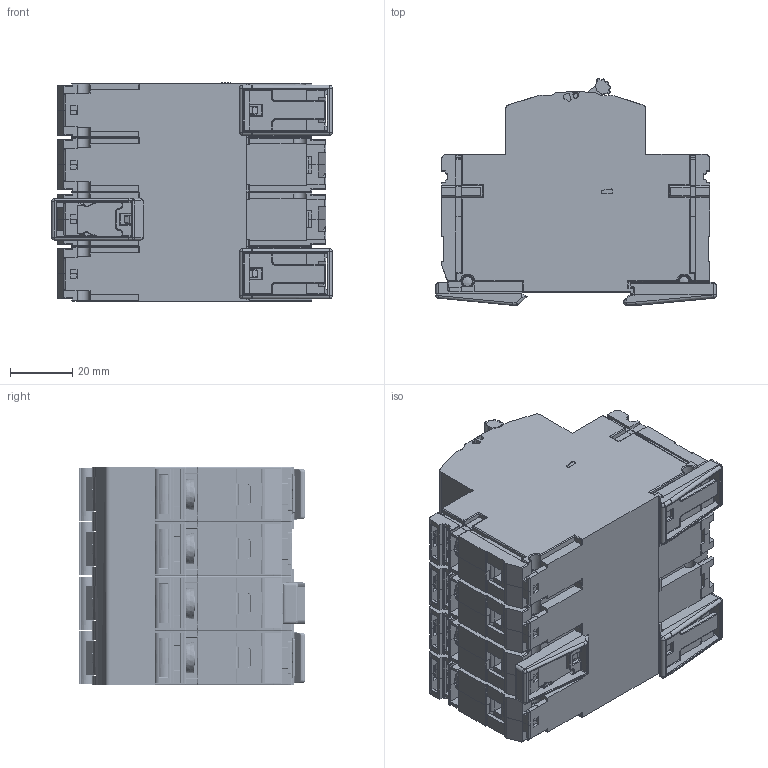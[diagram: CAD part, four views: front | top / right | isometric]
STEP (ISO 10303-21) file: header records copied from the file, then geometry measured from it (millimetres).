
FILE_DESCRIPTION (( 'STEP AP214' ), '1' );
FILE_NAME ('APN-4_zj2.step', '2013-06-24T11:58:10', ( 'Siemens' ), ( 'Siemens' ), 'SwSTEP 2.0', 'SolidWorks 2011', '' );
FILE_SCHEMA (( 'AUTOMOTIVE_DESIGN' ));
Length unit declared in the file: millimetre
Products named in the file (1): APN-4_zj2
Bounding box: 90.21 x 72.92 x 70.13 mm (x, y, z)
Volume: 302529.6 mm3; surface area: 60895.3 mm2
Topology: 1 solids, 13 shells, 6136 faces, 17427 edges, 11095 vertices
Faces by surface type: plane 3394, cylinder 1869, torus 375, bspline 256, cone 130, sphere 112
Entity records: 299358 total; most frequent: CARTESIAN_POINT 84325, ORIENTED_EDGE 34510, DIRECTION 25017, EDGE_CURVE 17255, VERTEX_POINT 11089, VECTOR 10725, LINE 10725, AXIS2_PLACEMENT_3D 7146
